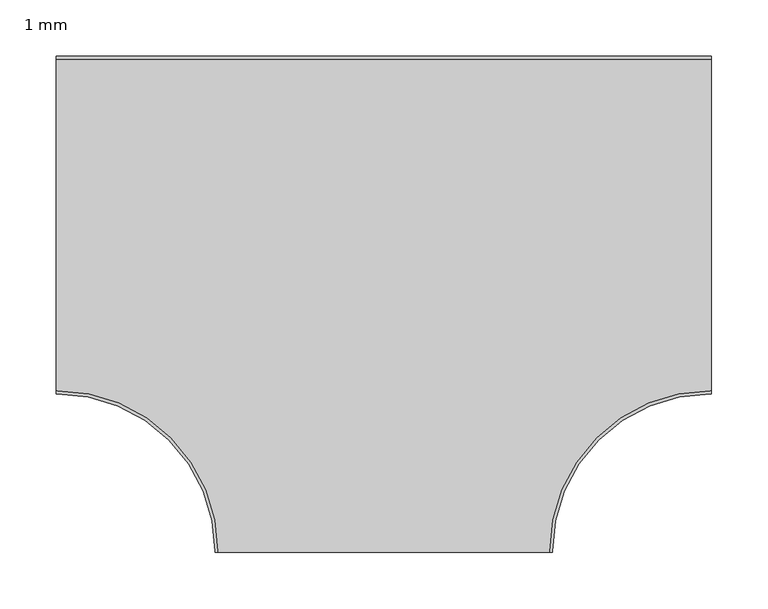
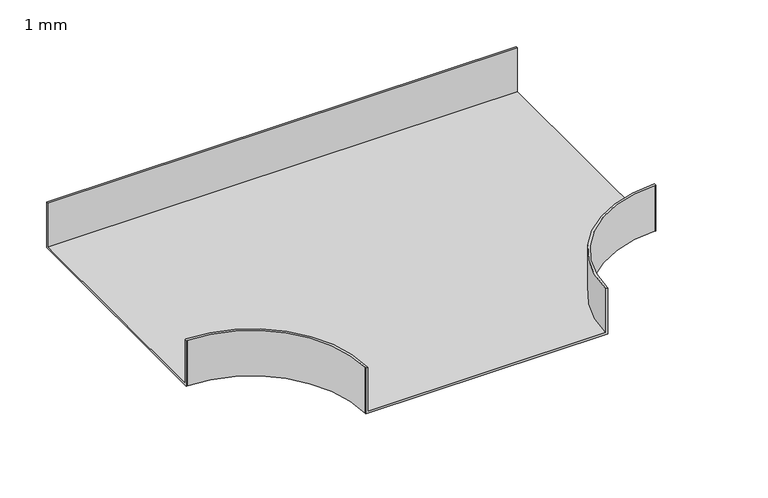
"""IFC4 building model written with IfcOpenShell, lengths in millimetres: cable carrier fitting geometry, BAKS_Trójnik_koryta (R140) : 1 mm."""

import ifcopenshell
import ifcopenshell.guid

model = None  # the IFC model being written
_history = None  # IfcOwnerHistory: only IFC2X3 demands one
_inside = {}  # id of a spatial element -> (the spatial element, [elements in it])
_under = {}  # id of a project, library or spatial element -> (it, [spatial elements below it])
_declared = {}  # id of a project -> (the project, [libraries it declares])
_typed = {}  # id of a type object -> (the type object, [elements of that type])
_made_of = {}  # id of a material, layer set ... -> (it, [elements and type objects made of it])


def new_model(schema):
    """Start an empty IFC model of exactly this schema.

    Asked for "IFC4X3", IfcOpenShell would pick the latest addendum, in which some entities
    have other attributes; the version numbers below select the first issue.
    IFC2X3 requires an IfcOwnerHistory on every rooted entity: one is made here for all.
    """
    global model, _history
    if schema == "IFC4X3":
        model = ifcopenshell.file(schema_version=(4, 3, 0, 0))
    else:
        model = ifcopenshell.file(schema=schema)
    _inside.clear()
    _under.clear()
    _declared.clear()
    _typed.clear()
    _made_of.clear()
    _history = None
    if model.schema == "IFC2X3":
        org = make("IfcOrganization", Name="unknown")
        user = make(
            "IfcPersonAndOrganization",
            ThePerson=make("IfcPerson", FamilyName="unknown"),
            TheOrganization=org,
        )
        app = make(
            "IfcApplication",
            ApplicationDeveloper=org,
            Version="unknown",
            ApplicationFullName="unknown",
            ApplicationIdentifier="unknown",
        )
        _history = make(
            "IfcOwnerHistory",
            OwningUser=user,
            OwningApplication=app,
            ChangeAction="ADDED",
            CreationDate=0,
        )
    return model


def make(cls, **values):
    """One entity of the class cls with the attributes given. An attribute that is None is left unset."""
    return model.create_entity(
        cls, **{name: value for name, value in values.items() if value is not None}
    )


def rooted(cls, **values):
    """An entity with a GlobalId (a new one), such as an element, a storey or a relation."""
    return make(cls, GlobalId=ifcopenshell.guid.new(), OwnerHistory=_history, **values)


def si_unit(unit_type, name, prefix=None):
    """IfcSIUnit, for example si_unit("LENGTHUNIT", "METRE", prefix="MILLI")."""
    return make("IfcSIUnit", UnitType=unit_type, Prefix=prefix, Name=name)


def assignment(units):
    """IfcUnitAssignment: the units of a project."""
    return None if units is None else make("IfcUnitAssignment", Units=units)


def point(xyz):
    """IfcCartesianPoint."""
    return None if xyz is None else make("IfcCartesianPoint", Coordinates=xyz)


def direction(xyz):
    """IfcDirection."""
    return None if xyz is None else make("IfcDirection", DirectionRatios=xyz)


def frame(location, z_axis=None, x_axis=None):
    """IfcAxis2Placement3D, a coordinate frame: its origin and axes. An axis left out is left unset."""
    return make(
        "IfcAxis2Placement3D",
        Location=point(location),
        Axis=direction(z_axis),
        RefDirection=direction(x_axis),
    )


def origin():
    """The frame at (0, 0, 0) with its axes left unset."""
    return frame((0.0, 0.0, 0.0))


def place(relative_to, where):
    """IfcLocalPlacement: puts the frame where relative to a parent placement (None: the world)."""
    return make(
        "IfcLocalPlacement", PlacementRelTo=relative_to, RelativePlacement=where
    )


def context(
    kind, dimensions, precision=None, world=None, true_north=None, identifier=None
):
    """IfcGeometricRepresentationContext, for example the 3D "Model" context."""
    return make(
        "IfcGeometricRepresentationContext",
        ContextIdentifier=identifier,
        ContextType=kind,
        CoordinateSpaceDimension=dimensions,
        Precision=precision,
        WorldCoordinateSystem=world,
        TrueNorth=true_north,
    )


def project(units=None, contexts=None):
    """IfcProject with its units and contexts."""
    return rooted(
        "IfcProject",
        Name="project",
        RepresentationContexts=contexts,
        UnitsInContext=assignment(units),
    )


def spatial(cls, under=None, at=None, **own):
    """A site, building, storey or space (cls), placed at a placement, below another one or the project."""
    s = rooted(cls, ObjectPlacement=at, **own)
    if under is not None:
        _under.setdefault(under.id(), (under, []))[1].append(s)
    return s


def polyline(points):
    """IfcPolyline through the points."""
    return make("IfcPolyline", Points=[point(p) for p in points])


def circle_curve(where, radius):
    """IfcCircle in the frame where."""
    return make("IfcCircle", Position=where, Radius=radius)


def shape(context_of_items, identifier, shape_type, items):
    """IfcShapeRepresentation: the items that make up one representation, for example the "Body"."""
    return make(
        "IfcShapeRepresentation",
        ContextOfItems=context_of_items,
        RepresentationIdentifier=identifier,
        RepresentationType=shape_type,
        Items=items,
    )


def source(mapping_origin, context_of_items, identifier, shape_type, items):
    """IfcRepresentationMap: a shape defined once, which mapped items show again and again."""
    return make(
        "IfcRepresentationMap",
        MappingOrigin=mapping_origin,
        MappedRepresentation=shape(context_of_items, identifier, shape_type, items),
    )


def transform(
    local_origin,
    x_axis=None,
    y_axis=None,
    z_axis=None,
    scale=None,
    scale2=None,
    scale3=None,
    uniform=True,
):
    """IfcCartesianTransformationOperator3D, or its non-uniform kind. x_axis, y_axis, z_axis: its Axis1, 2, 3."""
    if uniform:
        return make(
            "IfcCartesianTransformationOperator3D",
            Axis1=direction(x_axis),
            Axis2=direction(y_axis),
            LocalOrigin=point(local_origin),
            Scale=scale,
            Axis3=direction(z_axis),
        )
    return make(
        "IfcCartesianTransformationOperator3DnonUniform",
        Axis1=direction(x_axis),
        Axis2=direction(y_axis),
        LocalOrigin=point(local_origin),
        Scale=scale,
        Axis3=direction(z_axis),
        Scale2=scale2,
        Scale3=scale3,
    )


def mapped(mapping_source, mapping_target):
    """IfcMappedItem: shows the shape of a source again, moved by a transform."""
    return make(
        "IfcMappedItem", MappingSource=mapping_source, MappingTarget=mapping_target
    )


def made_of(thing, what):
    """Note that an element or type object is made of a material, layer set ...; save() writes the relation."""
    if what is not None:
        _made_of.setdefault(what.id(), (what, []))[1].append(thing)
    return thing


def element(
    cls,
    number,
    at=None,
    inside=None,
    cuts=None,
    type_object=None,
    material=None,
    context=None,
    identifier="Body",
    shape_type=None,
    held_by="IfcProductDefinitionShape",
    body=None,
    shapes=None,
    **own,
):
    """One element of the class cls, such as IfcWall. Its Tag is "e" and its number.

    at: its placement. inside: the storey or other place that contains it. cuts: it is an
    opening in that element (IfcRelVoidsElement). A single representation is given by context,
    identifier, shape_type and body (its items); several are given by shapes. held_by: the class
    of the entity that holds the representations. save() writes the other relations.
    """
    e = rooted(cls, Tag="e%d" % number, ObjectPlacement=at, **own)
    if body is not None:
        shapes = [shape(context, identifier, shape_type, body)]
    if shapes is not None:
        e.Representation = make(held_by, Representations=shapes)
    if inside is not None:
        _inside.setdefault(inside.id(), (inside, []))[1].append(e)
    if cuts is not None:
        rooted(
            "IfcRelVoidsElement", RelatingBuildingElement=cuts, RelatedOpeningElement=e
        )
    if type_object is not None:
        _typed.setdefault(type_object.id(), (type_object, []))[1].append(e)
    return made_of(e, material)


def aggregate(whole, parts):
    """IfcRelAggregates: a whole, such as a stair, and the parts it consists of."""
    return rooted("IfcRelAggregates", RelatingObject=whole, RelatedObjects=parts)


def save(model, path):
    """Write the relations noted so far, then the file.

    IfcRelAggregates (storeys below a building ...), IfcRelContainedInSpatialStructure (elements
    in a storey), IfcRelDefinesByType, IfcRelAssociatesMaterial and IfcRelDeclares: one each for
    every whole, place, type object, material and project.
    """
    for whole, parts in _under.values():
        aggregate(whole, parts)
    for where, things in _inside.values():
        rooted(
            "IfcRelContainedInSpatialStructure",
            RelatedElements=things,
            RelatingStructure=where,
        )
    for kind, things in _typed.values():
        rooted("IfcRelDefinesByType", RelatedObjects=things, RelatingType=kind)
    for what, things in _made_of.values():
        rooted("IfcRelAssociatesMaterial", RelatedObjects=things, RelatingMaterial=what)
    for by, libraries in _declared.values():
        rooted("IfcRelDeclares", RelatingContext=by, RelatedDefinitions=libraries)
    model.write(path)


def plane_surface(at):
    """IfcPlane: the flat surface through the origin of the frame at, square to its z axis."""
    return make("IfcPlane", Position=at)


def cylinder_surface(at, radius):
    """IfcCylindricalSurface: all points at the distance radius from the z axis of the frame at."""
    return make("IfcCylindricalSurface", Position=at, Radius=radius)


def revolved_surface(curve, axis_point, axis_direction):
    """IfcSurfaceOfRevolution: the curve turned about the line through axis_point along axis_direction."""
    return make(
        "IfcSurfaceOfRevolution",
        SweptCurve=make("IfcArbitraryOpenProfileDef", ProfileType="CURVE", Curve=curve),
        AxisPosition=make("IfcAxis1Placement", Location=point(axis_point), Axis=direction(axis_direction)),
    )


def advanced_brep(points, edges, surfaces, faces):
    """IfcAdvancedBrep: a solid bounded by faces that lie on surfaces and meet in shared edges.

    An edge is (start, end): straight between two places in points (the first is 0);
    or (start, end, curve); or (start, end, curve, False) where it runs against its curve.
    A face is (place in surfaces, loops), or (place, loops, False) where it looks against
    its surface's normal. A loop lists edges by number (the first is 1), with a minus sign
    where the edge is run from its end to its start. The first loop is the outer one.
    """
    corners = [point(p) for p in points]
    vertices = [make("IfcVertexPoint", VertexGeometry=c) for c in corners]
    made = []
    for start, end, *more in edges:
        made.append(
            make(
                "IfcEdgeCurve",
                EdgeStart=vertices[start],
                EdgeEnd=vertices[end],
                EdgeGeometry=more[0] if more else make("IfcPolyline", Points=[corners[start], corners[end]]),
                SameSense=more[1] if len(more) > 1 else True,
            )
        )
    hull = []
    for where, loops, *sense in faces:
        bounds = []
        for j, loop in enumerate(loops):
            ring = [make("IfcOrientedEdge", EdgeElement=made[abs(k) - 1], Orientation=k > 0) for k in loop]
            bounds.append(
                make(
                    "IfcFaceOuterBound" if j == 0 else "IfcFaceBound",
                    Bound=make("IfcEdgeLoop", EdgeList=ring),
                    Orientation=True,
                )
            )
        hull.append(make("IfcAdvancedFace", Bounds=bounds, FaceSurface=surfaces[where], SameSense=sense[0] if sense else True))
    return make("IfcAdvancedBrep", Outer=make("IfcClosedShell", CfsFaces=hull))


def cable_carrier_fitting_1_mm_a7febe8f(model_context):
    return source(origin(), model_context, "Body", "AdvancedBrep", [
        advanced_brep(
        [(-150.0, -290.0, 30.0), (-150.0, -291.0, 30.0), (-147.46, -291.0, 30.0), (-147.46, -290.0, 30.0), (-290.0, -147.46, 30.0), (-291.0, -147.46, 30.0), (-291.0, -150.0, 30.0), (-290.0, -150.0, 30.0), (150.0, -290.0, 30.0), (290.0, -150.0, 30.0), (291.0, -150.0, 30.0), (291.0, -147.46, 30.0), (290.0, -147.46, 30.0), (147.46, -290.0, 30.0), (147.46, -291.0, 30.0), (150.0, -291.0, 30.0), (291.0, 150.0, 30.0), (-291.0, 150.0, 30.0), (-291.0, 147.46, 30.0), (291.0, 147.46, 30.0), (-150.0, -290.0, -30.0), (-290.0, -150.0, -30.0), (-291.0, -150.0, -30.0), (-291.0, 150.0, -30.0), (291.0, 150.0, -30.0), (291.0, -150.0, -30.0), (290.0, -150.0, -30.0), (150.0, -290.0, -30.0), (150.0, -291.0, -30.0), (-150.0, -291.0, -30.0), (-150.0, -290.0, -27.46), (147.46, -291.0, -27.46), (-147.46, -291.0, -27.46), (-147.46, -290.0, -27.46), (-290.0, -147.46, -27.46), (-291.0, -147.46, -27.46), (-291.0, 147.46, -27.46), (-290.0, -150.0, -27.46), (150.0, -290.0, -27.46), (290.0, -150.0, -27.46), (291.0, 147.46, -27.46), (291.0, -147.46, -27.46), (290.0, -147.46, -27.46), (147.46, -290.0, -27.46)],
        [
            (0, 1),
            (1, 2),
            (2, 3),
            (3, 4, circle_curve(frame((-290.0, -290.0, 30.0), z_axis=(0.0, 0.0, 1.0), x_axis=(1.0, 0.0, 0.0)), 142.54)),
            (4, 5),
            (5, 6),
            (6, 7),
            (7, 0, circle_curve(frame((-290.0, -290.0, 30.0), z_axis=(0.0, 0.0, -1.0), x_axis=(1.0, 0.0, 0.0)), 140.0)),
            (8, 9, circle_curve(frame((290.0, -290.0, 30.0), z_axis=(0.0, 0.0, -1.0), x_axis=(1.0, 0.0, 0.0)), 140.0)),
            (9, 10),
            (10, 11),
            (11, 12),
            (12, 13, circle_curve(frame((290.0, -290.0, 30.0), z_axis=(0.0, 0.0, 1.0), x_axis=(1.0, 0.0, 0.0)), 142.54)),
            (13, 14),
            (14, 15),
            (15, 8),
            (16, 17),
            (17, 18),
            (18, 19),
            (19, 16),
            (20, 21, circle_curve(frame((-290.0, -290.0, -30.0), z_axis=(0.0, 0.0, 1.0), x_axis=(1.0, 0.0, 0.0)), 140.0)),
            (21, 22),
            (22, 23),
            (23, 24),
            (24, 25),
            (25, 26),
            (26, 27, circle_curve(frame((290.0, -290.0, -30.0), z_axis=(0.0, 0.0, 1.0), x_axis=(1.0, 0.0, 0.0)), 140.0)),
            (27, 28),
            (28, 29),
            (29, 20),
            (29, 1),
            (0, 30),
            (30, 20),
            (28, 15),
            (14, 31),
            (31, 32),
            (32, 2),
            (32, 33),
            (33, 3),
            (33, 34, circle_curve(frame((-290.0, -290.0, -27.46), z_axis=(0.0, 0.0, 1.0), x_axis=(1.0, 0.0, 0.0)), 142.54)),
            (34, 4),
            (34, 35),
            (35, 5),
            (35, 36),
            (36, 18),
            (17, 23),
            (22, 6),
            (21, 37),
            (37, 7),
            (8, 38),
            (38, 27),
            (26, 39),
            (39, 9),
            (25, 10),
            (24, 16),
            (19, 40),
            (40, 41),
            (41, 11),
            (41, 42),
            (42, 12),
            (42, 43, circle_curve(frame((290.0, -290.0, -27.46), z_axis=(0.0, 0.0, 1.0), x_axis=(1.0, 0.0, 0.0)), 142.54)),
            (43, 13),
            (43, 31),
            (36, 40),
        ],
        [
            plane_surface(frame((-150.0, -290.0, 30.0), z_axis=(0.0, 0.0, 1.0), x_axis=(0.0, -1.0, 0.0))),
            plane_surface(frame((-150.0, -290.0, -30.0), z_axis=(0.0, 0.0, -1.0), x_axis=(0.0, 1.0, 0.0))),
            plane_surface(frame((-150.0, -290.0, 30.0), z_axis=(-1.0, 0.0, 0.0), x_axis=(0.0, 0.0, -1.0))),
            plane_surface(frame((-150.0, -291.0, 30.0), z_axis=(0.0, -1.0, 0.0), x_axis=(0.0, 0.0, -1.0))),
            plane_surface(frame((-147.46, -291.0, 30.0), z_axis=(1.0, 0.0, 0.0), x_axis=(0.0, 0.0, -1.0))),
            cylinder_surface(frame((-290.0, -290.0, -30.0), z_axis=(0.0, 0.0, 1.0), x_axis=(1.0, 0.0, 0.0)), 142.54),
            plane_surface(frame((-290.0, -147.46, 30.0), z_axis=(0.0, 1.0, 0.0), x_axis=(0.0, 0.0, -1.0))),
            plane_surface(frame((-291.0, -147.46, 30.0), z_axis=(-1.0, 0.0, 0.0), x_axis=(0.0, 0.0, -1.0))),
            plane_surface(frame((-291.0, -150.0, 30.0), z_axis=(2.7240876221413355e-12, -1.0, 0.0), x_axis=(0.0, 0.0, -1.0))),
            revolved_surface(polyline([(-150.0, -290.0, -30.0), (-150.0, -290.0, 30.0)]), (-290.0, -290.0, -30.0), (0.0, 0.0, -1.0)),
            revolved_surface(polyline([(430.0, -290.0, -30.0), (430.0, -290.0, 30.0)]), (290.0, -290.0, 0.0), (0.0, 0.0, -1.0)),
            plane_surface(frame((290.0, -150.0, 30.0), z_axis=(-2.724087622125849e-12, -1.0, 0.0), x_axis=(0.0, 0.0, -1.0))),
            plane_surface(frame((291.0, -150.0, 30.0), z_axis=(1.0, 0.0, 0.0), x_axis=(0.0, 0.0, -1.0))),
            plane_surface(frame((291.0, -147.46, 30.0), z_axis=(0.0, 1.0, 0.0), x_axis=(0.0, 0.0, -1.0))),
            cylinder_surface(frame((290.0, -290.0, 0.0), z_axis=(0.0, 0.0, 1.0), x_axis=(1.0, 0.0, 0.0)), 142.54),
            plane_surface(frame((147.46, -290.0, 30.0), z_axis=(-1.0, 0.0, 0.0), x_axis=(0.0, 0.0, -1.0))),
            plane_surface(frame((150.0, -291.0, 30.0), z_axis=(1.0, 0.0, 0.0), x_axis=(0.0, 0.0, -1.0))),
            plane_surface(frame((291.0, 150.0, 30.0), z_axis=(0.0, 1.0, 0.0), x_axis=(0.0, 0.0, -1.0))),
            plane_surface(frame((-291.0, 147.46, 30.0), z_axis=(0.0, -1.0, 0.0), x_axis=(0.0, 0.0, -1.0))),
            plane_surface(frame((-150.0, -290.0, -27.46), z_axis=(0.0, 0.0, 1.0), x_axis=(0.0, -1.0, 0.0))),
        ],
        [
            (0, [[1, 2, 3, 4, 5, 6, 7, 8]]),
            (0, [[9, 10, 11, 12, 13, 14, 15, 16]]),
            (0, [[17, 18, 19, 20]]),
            (1, [[21, 22, 23, 24, 25, 26, 27, 28, 29, 30]]),
            (2, [[31, -1, 32, 33, -30]]),
            (3, [[-2, -31, -29, 34, -15, 35, 36, 37]]),
            (4, [[-3, -37, 38, 39]]),
            (5, [[-4, -39, 40, 41]]),
            (6, [[-5, -41, 42, 43]]),
            (7, [[-6, -43, 44, 45, -18, 46, -23, 47]]),
            (8, [[-7, -47, -22, 48, 49]]),
            (9, [[-8, -49, -48, -21, -33, -32]]),
            (10, [[-9, 50, 51, -27, 52, 53]]),
            (11, [[54, -10, -53, -52, -26]]),
            (12, [[-11, -54, -25, 55, -20, 56, 57, 58]]),
            (13, [[-12, -58, 59, 60]]),
            (14, [[-13, -60, 61, 62]]),
            (15, [[-14, -62, 63, -35]]),
            (16, [[-16, -34, -28, -51, -50]]),
            (17, [[-46, -17, -55, -24]]),
            (18, [[-19, -45, 64, -56]]),
            (19, [[-36, -63, -61, -59, -57, -64, -44, -42, -40, -38]]),
        ],
    ),
    ])


if __name__ == "__main__":
    model = new_model("IFC4")
    model_context = context("Model", 3, world=origin())
    ifc_project = project(units=[si_unit("LENGTHUNIT", "METRE", prefix="MILLI")], contexts=[model_context])
    site = spatial("IfcSite", under=ifc_project)
    building = spatial("IfcBuilding", under=site)
    placement = place(None, origin())
    cable_carrier_fitting_1_mm_shape = cable_carrier_fitting_1_mm_a7febe8f(model_context)
    element("IfcCableCarrierFitting", 1, ObjectType="BAKS_Trójnik_koryta (R140) : 1 mm", at=placement, inside=building, context=model_context, shape_type="MappedRepresentation", body=[
        mapped(cable_carrier_fitting_1_mm_shape, transform((0.0, 0.0, 0.0), x_axis=(1.0, 0.0, 0.0), y_axis=(0.0, 1.0, 0.0), z_axis=(0.0, 0.0, 1.0))),
    ])
    save(model, "model.ifc")
